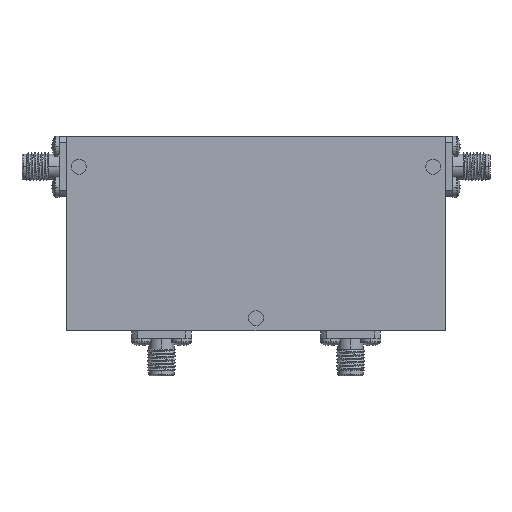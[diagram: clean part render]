
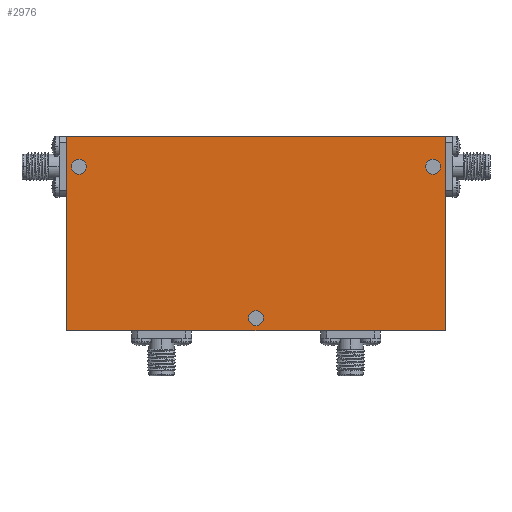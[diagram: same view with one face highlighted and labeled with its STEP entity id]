
A CAD part, top view. The second image highlights one B-rep face of the part: STEP entity #2976.
In plain terms, the highlighted planar face has unit normal (0, 0, 1).
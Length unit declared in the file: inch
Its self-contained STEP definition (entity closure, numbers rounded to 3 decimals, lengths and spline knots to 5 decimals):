
#67 = FACE_OUTER_BOUND ( 'NONE', #3204, .T. ) ;
#124 = CARTESIAN_POINT ( 'NONE',  ( 1.58, 0.81, 0.35 ) ) ;
#133 = DIRECTION ( 'NONE',  ( 0., 0., 1. ) ) ;
#173 = PLANE ( 'NONE',  #787 ) ;
#197 = CARTESIAN_POINT ( 'NONE',  ( -1.4175, 0.56, 0.35 ) ) ;
#228 = VERTEX_POINT ( 'NONE', #2725 ) ;
#242 = CARTESIAN_POINT ( 'NONE',  ( -1.48, 0.56, 0.35 ) ) ;
#342 = ORIENTED_EDGE ( 'NONE', *, *, #3476, .T. ) ;
#458 = CARTESIAN_POINT ( 'NONE',  ( 1.58, -0.81, 0.35 ) ) ;
#476 = CARTESIAN_POINT ( 'NONE',  ( -1.58, 0.81, 0.35 ) ) ;
#480 = AXIS2_PLACEMENT_3D ( 'NONE', #242, #3245, #1753 ) ;
#517 = ORIENTED_EDGE ( 'NONE', *, *, #2705, .T. ) ;
#550 = CARTESIAN_POINT ( 'NONE',  ( 0., -0.705, 0.35 ) ) ;
#580 = FACE_BOUND ( 'NONE', #2324, .T. ) ;
#600 = DIRECTION ( 'NONE',  ( -1., 0., 0. ) ) ;
#677 = DIRECTION ( 'NONE',  ( 1., 0., 0. ) ) ;
#700 = VERTEX_POINT ( 'NONE', #124 ) ;
#711 = CARTESIAN_POINT ( 'NONE',  ( -1.48, 0.56, 0.35 ) ) ;
#753 = EDGE_CURVE ( 'NONE', #3686, #2120, #1431, .T. ) ;
#787 = AXIS2_PLACEMENT_3D ( 'NONE', #3702, #2508, #1943 ) ;
#844 = ORIENTED_EDGE ( 'NONE', *, *, #1503, .T. ) ;
#907 = ORIENTED_EDGE ( 'NONE', *, *, #1780, .F. ) ;
#910 = CIRCLE ( 'NONE', #480, 0.0625 ) ;
#926 = ORIENTED_EDGE ( 'NONE', *, *, #1976, .F. ) ;
#962 = CIRCLE ( 'NONE', #2140, 0.0625 ) ;
#1002 = LINE ( 'NONE', #3615, #2917 ) ;
#1022 = VERTEX_POINT ( 'NONE', #458 ) ;
#1054 = DIRECTION ( 'NONE',  ( 0., 0., 1. ) ) ;
#1100 = DIRECTION ( 'NONE',  ( 0., -1., 0. ) ) ;
#1299 = CARTESIAN_POINT ( 'NONE',  ( 0., -0.705, 0.35 ) ) ;
#1308 = EDGE_CURVE ( 'NONE', #2671, #3620, #2930, .T. ) ;
#1431 = LINE ( 'NONE', #2283, #1999 ) ;
#1446 = DIRECTION ( 'NONE',  ( 0., 0., 1. ) ) ;
#1450 = EDGE_LOOP ( 'NONE', ( #907, #1729 ) ) ;
#1483 = VERTEX_POINT ( 'NONE', #1971 ) ;
#1503 = EDGE_CURVE ( 'NONE', #1022, #700, #1756, .T. ) ;
#1514 = LINE ( 'NONE', #3093, #2636 ) ;
#1677 = CARTESIAN_POINT ( 'NONE',  ( 1.58, 0.81, 0.35 ) ) ;
#1729 = ORIENTED_EDGE ( 'NONE', *, *, #1308, .F. ) ;
#1753 = DIRECTION ( 'NONE',  ( 1., 0., 0. ) ) ;
#1756 = LINE ( 'NONE', #1677, #3077 ) ;
#1780 = EDGE_CURVE ( 'NONE', #3620, #2671, #962, .T. ) ;
#1918 = CARTESIAN_POINT ( 'NONE',  ( -1.5425, 0.56, 0.35 ) ) ;
#1931 = AXIS2_PLACEMENT_3D ( 'NONE', #711, #133, #2269 ) ;
#1943 = DIRECTION ( 'NONE',  ( 1., 0., 0. ) ) ;
#1962 = EDGE_LOOP ( 'NONE', ( #2290, #926 ) ) ;
#1971 = CARTESIAN_POINT ( 'NONE',  ( 1.5425, 0.56, 0.35 ) ) ;
#1976 = EDGE_CURVE ( 'NONE', #3457, #3083, #2031, .T. ) ;
#1999 = VECTOR ( 'NONE', #1100, 39.37008 ) ;
#2031 = CIRCLE ( 'NONE', #1931, 0.0625 ) ;
#2120 = VERTEX_POINT ( 'NONE', #2407 ) ;
#2140 = AXIS2_PLACEMENT_3D ( 'NONE', #550, #1446, #2646 ) ;
#2269 = DIRECTION ( 'NONE',  ( 1., 0., 0. ) ) ;
#2283 = CARTESIAN_POINT ( 'NONE',  ( -1.58, 0.81, 0.35 ) ) ;
#2290 = ORIENTED_EDGE ( 'NONE', *, *, #3700, .F. ) ;
#2310 = ORIENTED_EDGE ( 'NONE', *, *, #753, .T. ) ;
#2324 = EDGE_LOOP ( 'NONE', ( #3511, #3267 ) ) ;
#2347 = EDGE_CURVE ( 'NONE', #1483, #228, #3025, .T. ) ;
#2407 = CARTESIAN_POINT ( 'NONE',  ( -1.58, -0.81, 0.35 ) ) ;
#2493 = CARTESIAN_POINT ( 'NONE',  ( -0.0625, -0.705, 0.35 ) ) ;
#2508 = DIRECTION ( 'NONE',  ( 0., 0., 1. ) ) ;
#2636 = VECTOR ( 'NONE', #2792, 39.37008 ) ;
#2646 = DIRECTION ( 'NONE',  ( 1., 0., 0. ) ) ;
#2671 = VERTEX_POINT ( 'NONE', #2493 ) ;
#2705 = EDGE_CURVE ( 'NONE', #2120, #1022, #1514, .T. ) ;
#2721 = DIRECTION ( 'NONE',  ( 1., 0., 0. ) ) ;
#2725 = CARTESIAN_POINT ( 'NONE',  ( 1.4175, 0.56, 0.35 ) ) ;
#2733 = DIRECTION ( 'NONE',  ( 0., 0., 1. ) ) ;
#2779 = DIRECTION ( 'NONE',  ( 0., 0., 1. ) ) ;
#2792 = DIRECTION ( 'NONE',  ( 1., 0., 0. ) ) ;
#2852 = CARTESIAN_POINT ( 'NONE',  ( 1.48, 0.56, 0.35 ) ) ;
#2871 = FACE_BOUND ( 'NONE', #1450, .T. ) ;
#2917 = VECTOR ( 'NONE', #600, 39.37008 ) ;
#2930 = CIRCLE ( 'NONE', #3332, 0.0625 ) ;
#2968 = FACE_BOUND ( 'NONE', #1962, .T. ) ;
#2976 = ADVANCED_FACE ( 'NONE', ( #580, #2871, #2968, #67 ), #173, .T. ) ;
#3025 = CIRCLE ( 'NONE', #3206, 0.0625 ) ;
#3077 = VECTOR ( 'NONE', #3140, 39.37008 ) ;
#3083 = VERTEX_POINT ( 'NONE', #197 ) ;
#3093 = CARTESIAN_POINT ( 'NONE',  ( -1.58, -0.81, 0.35 ) ) ;
#3140 = DIRECTION ( 'NONE',  ( 0., 1., 0. ) ) ;
#3204 = EDGE_LOOP ( 'NONE', ( #844, #342, #2310, #517 ) ) ;
#3206 = AXIS2_PLACEMENT_3D ( 'NONE', #3358, #2733, #2721 ) ;
#3245 = DIRECTION ( 'NONE',  ( 0., 0., 1. ) ) ;
#3267 = ORIENTED_EDGE ( 'NONE', *, *, #3657, .F. ) ;
#3298 = CIRCLE ( 'NONE', #3801, 0.0625 ) ;
#3332 = AXIS2_PLACEMENT_3D ( 'NONE', #1299, #2779, #677 ) ;
#3358 = CARTESIAN_POINT ( 'NONE',  ( 1.48, 0.56, 0.35 ) ) ;
#3436 = CARTESIAN_POINT ( 'NONE',  ( 0.0625, -0.705, 0.35 ) ) ;
#3457 = VERTEX_POINT ( 'NONE', #1918 ) ;
#3476 = EDGE_CURVE ( 'NONE', #700, #3686, #1002, .T. ) ;
#3511 = ORIENTED_EDGE ( 'NONE', *, *, #2347, .F. ) ;
#3615 = CARTESIAN_POINT ( 'NONE',  ( -1.58, 0.81, 0.35 ) ) ;
#3620 = VERTEX_POINT ( 'NONE', #3436 ) ;
#3657 = EDGE_CURVE ( 'NONE', #228, #1483, #3298, .T. ) ;
#3686 = VERTEX_POINT ( 'NONE', #476 ) ;
#3700 = EDGE_CURVE ( 'NONE', #3083, #3457, #910, .T. ) ;
#3702 = CARTESIAN_POINT ( 'NONE',  ( 0., 0., 0.35 ) ) ;
#3760 = DIRECTION ( 'NONE',  ( 1., 0., 0. ) ) ;
#3801 = AXIS2_PLACEMENT_3D ( 'NONE', #2852, #1054, #3760 ) ;
